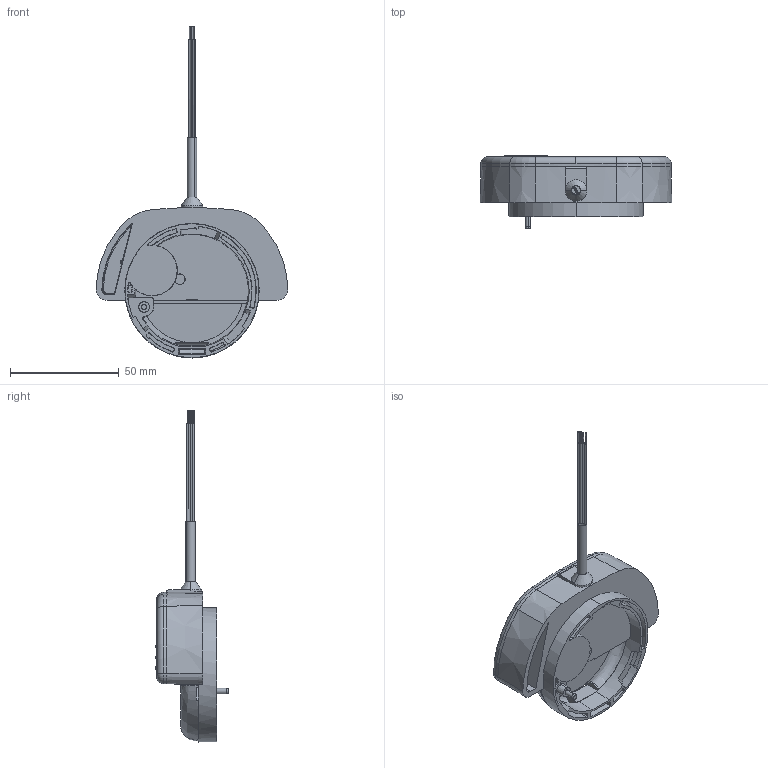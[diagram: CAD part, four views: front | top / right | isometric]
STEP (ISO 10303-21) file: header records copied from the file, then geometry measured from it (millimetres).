
FILE_DESCRIPTION (( 'STEP AP203' ), '1' );
FILE_NAME ('IWM-PL3 - modulo impulsi - MBUS.STEP', '2018-05-23T14:31:54', ( '' ), ( '' ), 'SwSTEP 2.0', 'SolidWorks 2018', '' );
FILE_SCHEMA (( 'CONFIG_CONTROL_DESIGN' ));
Length unit declared in the file: millimetre
Products named in the file (1): IWM-PL3 - modulo impulsi - MBUS
Bounding box: 87.99 x 33.75 x 152.4 mm (x, y, z)
Surface area: 22252.8 mm2 (no closed solid volume)
Topology: 0 solids, 7 shells, 237 faces, 769 edges, 533 vertices
Faces by surface type: plane 86, cone 52, cylinder 47, bspline 33, torus 19
Entity records: 9918 total; most frequent: CARTESIAN_POINT 3490, ORIENTED_EDGE 1313, DIRECTION 1261, EDGE_CURVE 769, VERTEX_POINT 533, AXIS2_PLACEMENT_3D 506, CIRCLE 301, EDGE_LOOP 264
